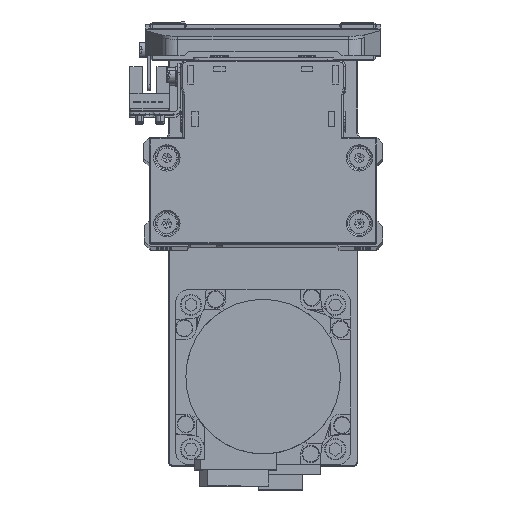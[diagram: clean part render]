
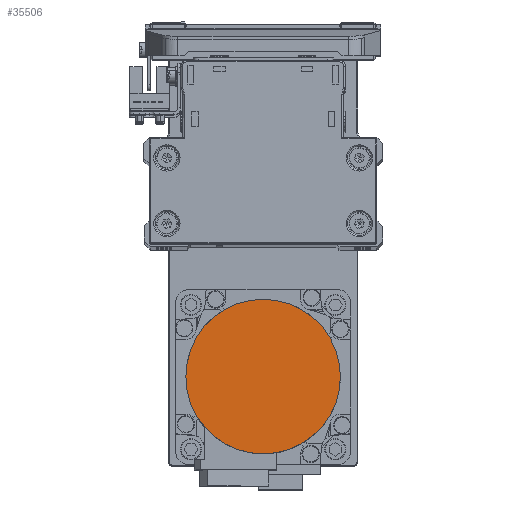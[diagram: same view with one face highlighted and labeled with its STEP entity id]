
A CAD part, top view. The second image highlights one B-rep face of the part: STEP entity #35506.
In plain terms, the highlighted planar face has unit normal (0, 0, 1) as drawn and (0, 0, -1) by its records, which use the part's own axes.
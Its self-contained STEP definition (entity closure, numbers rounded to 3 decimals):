
#1046 = PLANE ( 'NONE',  #4137 ) ;
#3880 = DIRECTION ( 'NONE',  ( -1., 0., 0. ) ) ;
#4137 = AXIS2_PLACEMENT_3D ( 'NONE', #13624, #26246, #38857 ) ;
#4905 = CIRCLE ( 'NONE', #28009, 26.5 ) ;
#9253 = CARTESIAN_POINT ( 'NONE',  ( 0., 0., -109.7 ) ) ;
#9571 = ORIENTED_EDGE ( 'NONE', *, *, #19889, .F. ) ;
#11050 = ORIENTED_EDGE ( 'NONE', *, *, #38461, .F. ) ;
#13624 = CARTESIAN_POINT ( 'NONE',  ( 0., 0., -109.7 ) ) ;
#16824 = EDGE_LOOP ( 'NONE', ( #11050, #9571 ) ) ;
#19588 = CARTESIAN_POINT ( 'NONE',  ( 0., 0., -109.7 ) ) ;
#19889 = EDGE_CURVE ( 'NONE', #36661, #28579, #40087, .T. ) ;
#21845 = DIRECTION ( 'NONE',  ( 0., 0., 1. ) ) ;
#22236 = AXIS2_PLACEMENT_3D ( 'NONE', #9253, #21845, #34465 ) ;
#26246 = DIRECTION ( 'NONE',  ( 0., 0., 1. ) ) ;
#27374 = CARTESIAN_POINT ( 'NONE',  ( 26.5, 0., -109.7 ) ) ;
#28009 = AXIS2_PLACEMENT_3D ( 'NONE', #19588, #32207, #3880 ) ;
#28579 = VERTEX_POINT ( 'NONE', #30246 ) ;
#29359 = FACE_OUTER_BOUND ( 'NONE', #16824, .T. ) ;
#30246 = CARTESIAN_POINT ( 'NONE',  ( -26.5, 0., -109.7 ) ) ;
#32207 = DIRECTION ( 'NONE',  ( 0., 0., 1. ) ) ;
#34465 = DIRECTION ( 'NONE',  ( 1., 0., 0. ) ) ;
#35506 = ADVANCED_FACE ( 'NONE', ( #29359 ), #1046, .F. ) ;
#36661 = VERTEX_POINT ( 'NONE', #27374 ) ;
#38461 = EDGE_CURVE ( 'NONE', #28579, #36661, #4905, .T. ) ;
#38857 = DIRECTION ( 'NONE',  ( 1., 0., 0. ) ) ;
#40087 = CIRCLE ( 'NONE', #22236, 26.5 ) ;
